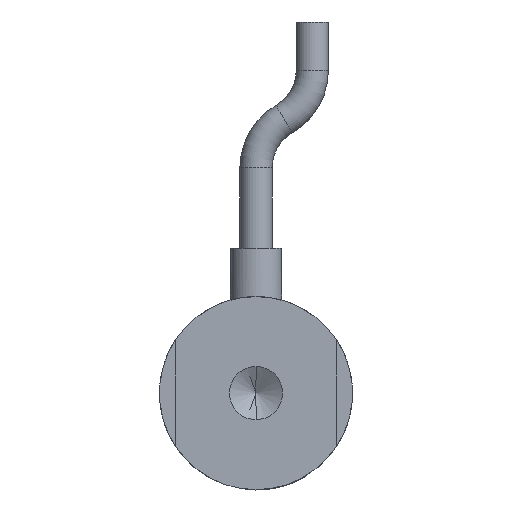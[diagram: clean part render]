
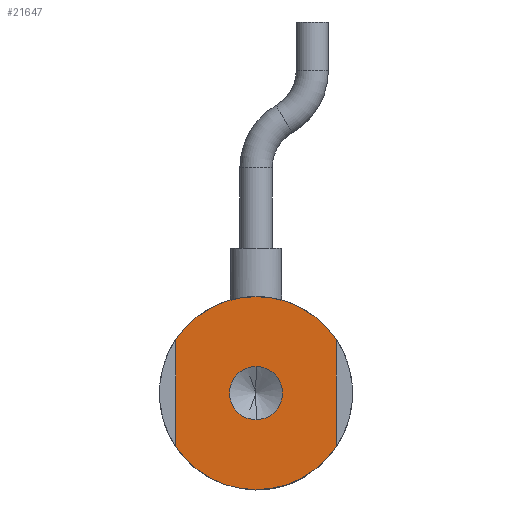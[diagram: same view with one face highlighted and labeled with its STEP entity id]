
A CAD part, front view. The second image highlights one B-rep face of the part: STEP entity #21647.
In plain terms, the highlighted planar face has unit normal (0, -1, 0).
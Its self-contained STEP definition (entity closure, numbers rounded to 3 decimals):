
#499 = VERTEX_POINT ( 'NONE', #25914 ) ;
#1203 = PLANE ( 'NONE',  #20378 ) ;
#1416 = ORIENTED_EDGE ( 'NONE', *, *, #14376, .F. ) ;
#1528 = EDGE_CURVE ( 'NONE', #499, #45530, #11211, .T. ) ;
#1629 = VECTOR ( 'NONE', #30386, 1000. ) ;
#1653 = EDGE_CURVE ( 'NONE', #19600, #38137, #37911, .T. ) ;
#2690 = CARTESIAN_POINT ( 'NONE',  ( 0., 0., 0. ) ) ;
#3466 = CARTESIAN_POINT ( 'NONE',  ( 0., 0., -6. ) ) ;
#3970 = VECTOR ( 'NONE', #27418, 1000. ) ;
#4632 = DIRECTION ( 'NONE',  ( 0., -1., 0. ) ) ;
#5797 = AXIS2_PLACEMENT_3D ( 'NONE', #2690, #27853, #6358 ) ;
#6358 = DIRECTION ( 'NONE',  ( 0., 0., 1. ) ) ;
#8531 = DIRECTION ( 'NONE',  ( 0., 1., 0. ) ) ;
#8613 = EDGE_LOOP ( 'NONE', ( #1416, #22327 ) ) ;
#9328 = AXIS2_PLACEMENT_3D ( 'NONE', #10578, #10518, #10417 ) ;
#9392 = AXIS2_PLACEMENT_3D ( 'NONE', #15063, #14950, #14922 ) ;
#10241 = ORIENTED_EDGE ( 'NONE', *, *, #36501, .F. ) ;
#10417 = DIRECTION ( 'NONE',  ( 0., 0., 1. ) ) ;
#10518 = DIRECTION ( 'NONE',  ( 0., 1., 0. ) ) ;
#10578 = CARTESIAN_POINT ( 'NONE',  ( 0., 0., 0. ) ) ;
#11036 = CARTESIAN_POINT ( 'NONE',  ( 0., 0., 1.65 ) ) ;
#11211 = CIRCLE ( 'NONE', #9392, 6. ) ;
#12620 = CARTESIAN_POINT ( 'NONE',  ( 5., 0., 3.317 ) ) ;
#13997 = CARTESIAN_POINT ( 'NONE',  ( -5., 0., 3.317 ) ) ;
#14376 = EDGE_CURVE ( 'NONE', #43540, #39045, #42635, .T. ) ;
#14922 = DIRECTION ( 'NONE',  ( 0., 0., 1. ) ) ;
#14950 = DIRECTION ( 'NONE',  ( 0., 1., 0. ) ) ;
#15063 = CARTESIAN_POINT ( 'NONE',  ( 0., 0., 0. ) ) ;
#15277 = ORIENTED_EDGE ( 'NONE', *, *, #38348, .F. ) ;
#18623 = ORIENTED_EDGE ( 'NONE', *, *, #1653, .F. ) ;
#19578 = DIRECTION ( 'NONE',  ( 0., 0., 1. ) ) ;
#19600 = VERTEX_POINT ( 'NONE', #13997 ) ;
#19944 = EDGE_CURVE ( 'NONE', #45507, #19600, #22118, .T. ) ;
#20378 = AXIS2_PLACEMENT_3D ( 'NONE', #36765, #40197, #19578 ) ;
#20648 = CARTESIAN_POINT ( 'NONE',  ( 0., 0., 0. ) ) ;
#20746 = ORIENTED_EDGE ( 'NONE', *, *, #19944, .F. ) ;
#20926 = FACE_OUTER_BOUND ( 'NONE', #45068, .T. ) ;
#21280 = AXIS2_PLACEMENT_3D ( 'NONE', #26249, #4632, #29698 ) ;
#21647 = ADVANCED_FACE ( 'NONE', ( #30184, #20926 ), #1203, .F. ) ;
#21961 = CIRCLE ( 'NONE', #5797, 6. ) ;
#22118 = LINE ( 'NONE', #23871, #3970 ) ;
#22327 = ORIENTED_EDGE ( 'NONE', *, *, #37269, .F. ) ;
#23871 = CARTESIAN_POINT ( 'NONE',  ( -5., 0., 0. ) ) ;
#24212 = DIRECTION ( 'NONE',  ( 0., 0., -1. ) ) ;
#24983 = VERTEX_POINT ( 'NONE', #12620 ) ;
#25914 = CARTESIAN_POINT ( 'NONE',  ( 5., 0., -3.317 ) ) ;
#26019 = AXIS2_PLACEMENT_3D ( 'NONE', #29835, #8531, #33199 ) ;
#26249 = CARTESIAN_POINT ( 'NONE',  ( 0., 0., 0. ) ) ;
#26353 = CARTESIAN_POINT ( 'NONE',  ( 0., 0., 6. ) ) ;
#26979 = CARTESIAN_POINT ( 'NONE',  ( 5., 0., 0. ) ) ;
#27247 = AXIS2_PLACEMENT_3D ( 'NONE', #20648, #44605, #24212 ) ;
#27418 = DIRECTION ( 'NONE',  ( 0., 0., 1. ) ) ;
#27853 = DIRECTION ( 'NONE',  ( 0., 1., 0. ) ) ;
#29698 = DIRECTION ( 'NONE',  ( 0., 0., -1. ) ) ;
#29835 = CARTESIAN_POINT ( 'NONE',  ( 0., 0., 0. ) ) ;
#30146 = LINE ( 'NONE', #26979, #1629 ) ;
#30184 = FACE_BOUND ( 'NONE', #8613, .T. ) ;
#30386 = DIRECTION ( 'NONE',  ( 0., 0., -1. ) ) ;
#30665 = CIRCLE ( 'NONE', #26019, 6. ) ;
#31817 = CARTESIAN_POINT ( 'NONE',  ( -5., 0., -3.317 ) ) ;
#32512 = ORIENTED_EDGE ( 'NONE', *, *, #1528, .F. ) ;
#33199 = DIRECTION ( 'NONE',  ( 0., 0., 1. ) ) ;
#36501 = EDGE_CURVE ( 'NONE', #24983, #499, #30146, .T. ) ;
#36765 = CARTESIAN_POINT ( 'NONE',  ( 0., 0., 0. ) ) ;
#37269 = EDGE_CURVE ( 'NONE', #39045, #43540, #39674, .T. ) ;
#37295 = EDGE_CURVE ( 'NONE', #38137, #24983, #30665, .T. ) ;
#37677 = CARTESIAN_POINT ( 'NONE',  ( 0., 0., -1.65 ) ) ;
#37911 = CIRCLE ( 'NONE', #9328, 6. ) ;
#38137 = VERTEX_POINT ( 'NONE', #26353 ) ;
#38348 = EDGE_CURVE ( 'NONE', #45530, #45507, #21961, .T. ) ;
#39045 = VERTEX_POINT ( 'NONE', #11036 ) ;
#39571 = ORIENTED_EDGE ( 'NONE', *, *, #37295, .F. ) ;
#39674 = CIRCLE ( 'NONE', #21280, 1.65 ) ;
#40197 = DIRECTION ( 'NONE',  ( 0., 1., 0. ) ) ;
#42635 = CIRCLE ( 'NONE', #27247, 1.65 ) ;
#43540 = VERTEX_POINT ( 'NONE', #37677 ) ;
#44605 = DIRECTION ( 'NONE',  ( 0., -1., 0. ) ) ;
#45068 = EDGE_LOOP ( 'NONE', ( #20746, #15277, #32512, #10241, #39571, #18623 ) ) ;
#45507 = VERTEX_POINT ( 'NONE', #31817 ) ;
#45530 = VERTEX_POINT ( 'NONE', #3466 ) ;
